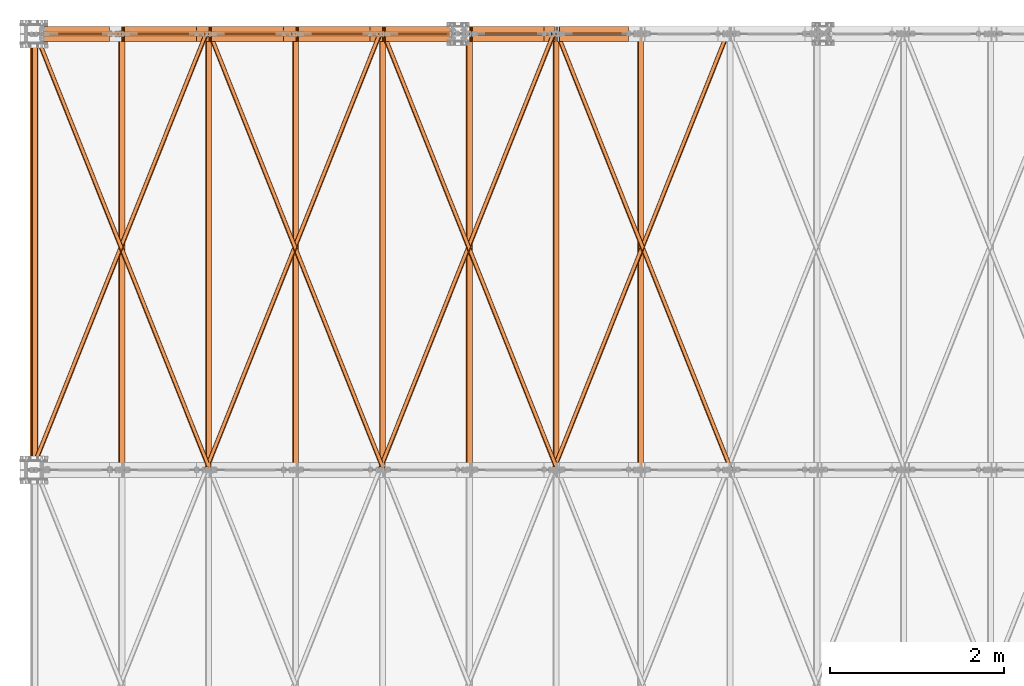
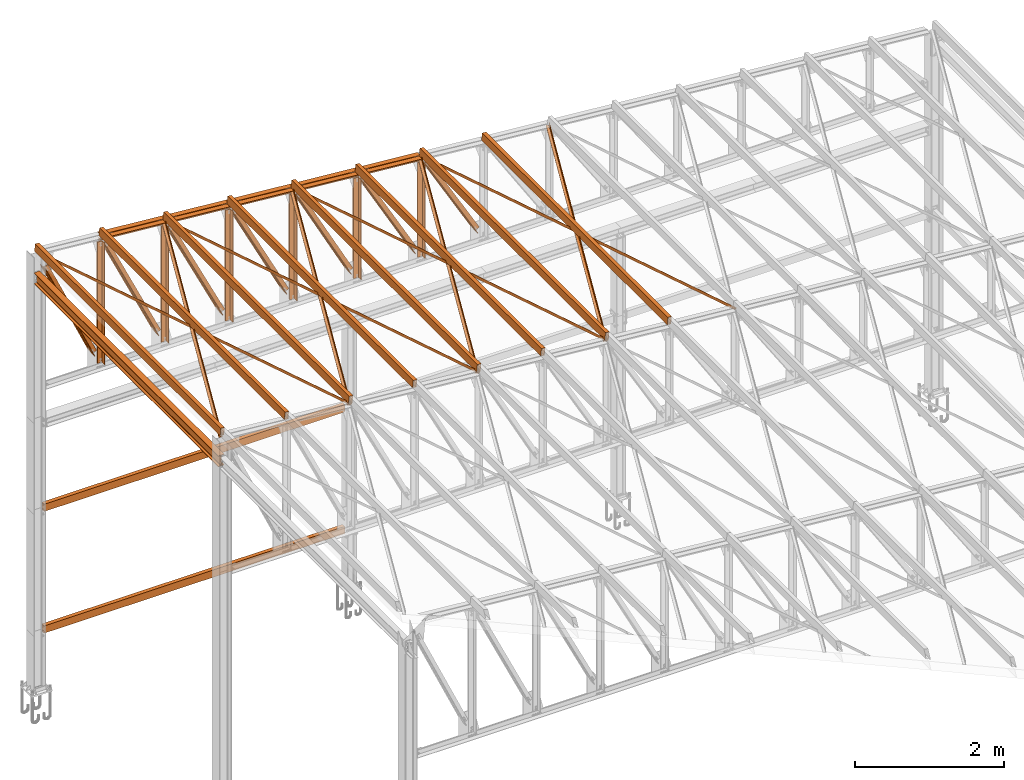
# One storey, part 243 of 251: 47 proxies.
"""IFC4 building model written with IfcOpenShell, lengths in metres."""

from ifc_helpers import new_model, si_unit, frame, frame_2d, origin_with_axes, origin_2d_with_axis, place, context, project, spatial, polyline, hollow_rectangle, i_section, l_section, outline, extrude, clip, halfspace, material, material_profile, profile_set, profile_usage, type_object, element, save


model = new_model("IFC4")

# Units and contexts
model_context = context("Model", 3, precision=1e-05, world=origin_with_axes())
ifc_project = project(units=[si_unit("LENGTHUNIT", "METRE"), si_unit("AREAUNIT", "SQUARE_METRE"), si_unit("VOLUMEUNIT", "CUBIC_METRE"), si_unit("MASSUNIT", "GRAM", prefix="KILO"), si_unit("TIMEUNIT", "SECOND"), si_unit("PLANEANGLEUNIT", "RADIAN"), si_unit("SOLIDANGLEUNIT", "STERADIAN"), si_unit("THERMODYNAMICTEMPERATUREUNIT", "DEGREE_CELSIUS")], contexts=[model_context])

# Site, building, storey
placement_1 = place(None, origin_with_axes())
site = spatial("IfcSite", under=ifc_project, at=placement_1, Name="Italia", CompositionType="ELEMENT")
building = spatial("IfcBuilding", under=site, at=placement_1, Name="Deposito", CompositionType="ELEMENT")
storey = spatial("IfcBuildingStorey", under=building, at=placement_1, Name="Storey 0", CompositionType="ELEMENT", Elevation=0.0)

# Proxies
ifc_material = material(Name="Acciaio", Category="Acciaio")
ifc_material_profile = material_profile(ifc_material, i_section(OverallWidth=0.2, OverallDepth=0.19, WebThickness=0.006, FlangeThickness=0.01, FilletRadius=0.018, at=origin_2d_with_axis()), Name="7 PILASTRO HEA200")
ifc_profile_set = profile_set([ifc_material_profile])
ifc_profile_usage_1 = profile_usage(ifc_profile_set, cardinal=1)
member_type_1 = type_object("IfcMemberType", Name="5 2L80x8", PredefinedType="MEMBER", material=ifc_profile_usage_1)
placement_2 = place(placement_1, origin_with_axes())
proxy_1_placement = place(placement_2, origin_with_axes())
element("IfcBuildingElementProxy", 1, at=proxy_1_placement, inside=storey, type_object=member_type_1, Name="170005", context=model_context, shape_type="SweptSolid", body=[
    extrude(outline(polyline([(0.0, 0.0), (-0.0799999, 0.0), (-0.0799999, 0.00800037), (-0.00800133, 0.00800037), (-0.00800133, 0.0799999), (0.0, 0.0799999), (0.0, 0.0)])), frame((12.0716, 19.995, 6.57981), z_axis=(0.496024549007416, 0.0, -0.868308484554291), x_axis=(0.0, 1.0, 0.0)), (0.0, 0.0, 1.0), 1.5955),
])
ifc_profile_usage_2 = profile_usage(ifc_profile_set, cardinal=1)
member_type_2 = type_object("IfcMemberType", Name="5 2L80x8", PredefinedType="MEMBER", material=ifc_profile_usage_2)
proxy_2_placement = place(placement_2, origin_with_axes())
element("IfcBuildingElementProxy", 2, at=proxy_2_placement, inside=storey, type_object=member_type_2, Name="170005", context=model_context, shape_type="SweptSolid", body=[
    extrude(outline(polyline([(0.0, 0.0), (0.00800133, 0.0), (0.00800133, -0.0719986), (0.0799999, -0.0719986), (0.0799999, -0.079999), (0.0, -0.079999), (0.0, 0.0)])), frame((12.1411, 20.005, 6.6195), z_axis=(0.496024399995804, 0.0, -0.868308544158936), x_axis=(0.0, 1.0, 0.0)), (0.0, 0.0, 1.0), 1.59551),
])
ifc_profile_usage_3 = profile_usage(ifc_profile_set, cardinal=2)
member_type_3 = type_object("IfcMemberType", Name="5 2L80x8", PredefinedType="MEMBER", material=ifc_profile_usage_3)
proxy_3_placement = place(placement_2, origin_with_axes())
element("IfcBuildingElementProxy", 3, at=proxy_3_placement, inside=storey, type_object=member_type_3, Name="230075", context=model_context, shape_type="SweptSolid", body=[
    extrude(outline(polyline([(0.0, 0.0), (0.0799999, 0.0), (0.0799999, -0.00800085), (0.00800133, -0.00800085), (0.00800133, -0.0799999), (0.0, -0.0799999), (0.0, 0.0)])), frame((7.05143, 20.005, 7.15546), z_axis=(0.996194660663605, 0.0, -0.087155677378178), x_axis=(0.0, 1.0, 0.0)), (0.0, 0.0, 1.0), 4.99498),
])
ifc_profile_usage_4 = profile_usage(ifc_profile_set, cardinal=2)
member_type_4 = type_object("IfcMemberType", Name="5 2L80x8", PredefinedType="MEMBER", material=ifc_profile_usage_4)
proxy_4_placement = place(placement_2, origin_with_axes())
element("IfcBuildingElementProxy", 4, at=proxy_4_placement, inside=storey, type_object=member_type_4, Name="230075", context=model_context, shape_type="SweptSolid", body=[
    extrude(outline(polyline([(0.0, 0.0), (-0.00800133, 0.0), (-0.00800133, 0.0719991), (-0.0799999, 0.0719991), (-0.0799999, 0.0799994), (0.0, 0.0799994), (0.0, 0.0)])), frame((7.04446, 19.995, 7.07576), z_axis=(0.99619472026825, 0.0, -0.087155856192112), x_axis=(0.0, 1.0, 0.0)), (0.0, 0.0, 1.0), 4.99498),
])
ifc_profile_usage_5 = profile_usage(ifc_profile_set, cardinal=1)
member_type_5 = type_object("IfcMemberType", Name="5 2L80x8", PredefinedType="MEMBER", material=ifc_profile_usage_5)
proxy_5_placement = place(placement_2, origin_with_axes())
element("IfcBuildingElementProxy", 5, at=proxy_5_placement, inside=storey, type_object=member_type_5, Name="70", context=model_context, shape_type="SweptSolid", body=[
    extrude(outline(polyline([(0.0, 0.0), (-0.0799999, 0.0), (-0.0799999, 0.00800037), (-0.00800133, 0.00800037), (-0.00800133, 0.0799999), (0.0, 0.0799999), (0.0, 0.0)])), frame((12.053, 19.995, 5.06753), z_axis=(0.0, 0.0, 1.0), x_axis=(0.0, 1.0, 0.0)), (0.0, 0.0, 1.0), 1.55988),
])
ifc_profile_usage_6 = profile_usage(ifc_profile_set, cardinal=1)
member_type_6 = type_object("IfcMemberType", Name="5 2L80x8", PredefinedType="MEMBER", material=ifc_profile_usage_6)
proxy_6_placement = place(placement_2, origin_with_axes())
element("IfcBuildingElementProxy", 6, at=proxy_6_placement, inside=storey, type_object=member_type_6, Name="70", context=model_context, shape_type="SweptSolid", body=[
    extrude(outline(polyline([(0.0, 0.0), (0.00800133, 0.0), (0.00800133, -0.0719995), (0.0799999, -0.0719995), (0.0799999, -0.0799999), (0.0, -0.0799999), (0.0, 0.0)])), frame((11.973, 20.005, 5.06753), z_axis=(0.0, 0.0, 1.0), x_axis=(0.0, 1.0, 0.0)), (0.0, 0.0, 1.0), 1.55988),
])
ifc_profile_usage_7 = profile_usage(ifc_profile_set, cardinal=1)
member_type_7 = type_object("IfcMemberType", Name="5 2L80x8", PredefinedType="MEMBER", material=ifc_profile_usage_7)
proxy_7_placement = place(placement_2, origin_with_axes())
element("IfcBuildingElementProxy", 7, at=proxy_7_placement, inside=storey, type_object=member_type_7, Name="180005", context=model_context, shape_type="SweptSolid", body=[
    extrude(outline(polyline([(0.0, 0.0), (-0.0799999, 0.0), (-0.0799999, 0.00799942), (-0.00800133, 0.00799942), (-0.00800133, 0.0799999), (0.0, 0.0799999), (0.0, 0.0)])), frame((11.0734, 19.995, 6.66808), z_axis=(0.487459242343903, 0.0, -0.873145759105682), x_axis=(0.0, 1.0, 0.0)), (0.0, 0.0, 1.0), 1.68149),
])
ifc_profile_usage_8 = profile_usage(ifc_profile_set, cardinal=1)
member_type_8 = type_object("IfcMemberType", Name="5 2L80x8", PredefinedType="MEMBER", material=ifc_profile_usage_8)
proxy_8_placement = place(placement_2, origin_with_axes())
element("IfcBuildingElementProxy", 8, at=proxy_8_placement, inside=storey, type_object=member_type_8, Name="180005", context=model_context, shape_type="SweptSolid", body=[
    extrude(outline(polyline([(0.0, 0.0), (0.00800133, 0.0), (0.00800133, -0.0719986), (0.0799999, -0.0719986), (0.0799999, -0.079998), (0.0, -0.079998), (0.0, 0.0)])), frame((11.1433, 20.005, 6.70707), z_axis=(0.487459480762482, 0.0, -0.873145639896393), x_axis=(0.0, 1.0, 0.0)), (0.0, 0.0, 1.0), 1.68149),
])
ifc_profile_usage_9 = profile_usage(ifc_profile_set, cardinal=1)
member_type_9 = type_object("IfcMemberType", Name="5 2L80x8", PredefinedType="MEMBER", material=ifc_profile_usage_9)
proxy_9_placement = place(placement_2, origin_with_axes())
element("IfcBuildingElementProxy", 9, at=proxy_9_placement, inside=storey, type_object=member_type_9, Name="69", context=model_context, shape_type="SweptSolid", body=[
    extrude(outline(polyline([(0.0, 0.0), (-0.0799999, 0.0), (-0.0799999, 0.00800037), (-0.00800133, 0.00800037), (-0.00800133, 0.0799999), (0.0, 0.0799999), (0.0, 0.0)])), frame((11.0568, 19.995, 5.06753), z_axis=(0.0, 0.0, 1.0), x_axis=(0.0, 1.0, 0.0)), (0.0, 0.0, 1.0), 1.64711),
])
ifc_profile_usage_10 = profile_usage(ifc_profile_set, cardinal=1)
member_type_10 = type_object("IfcMemberType", Name="5 2L80x8", PredefinedType="MEMBER", material=ifc_profile_usage_10)
proxy_10_placement = place(placement_2, origin_with_axes())
element("IfcBuildingElementProxy", 10, at=proxy_10_placement, inside=storey, type_object=member_type_10, Name="69", context=model_context, shape_type="SweptSolid", body=[
    extrude(outline(polyline([(0.0, 0.0), (0.00800133, 0.0), (0.00800133, -0.0719995), (0.0799999, -0.0719995), (0.0799999, -0.0799999), (0.0, -0.0799999), (0.0, 0.0)])), frame((10.9768, 20.005, 5.06753), z_axis=(0.0, 0.0, 1.0), x_axis=(0.0, 1.0, 0.0)), (0.0, 0.0, 1.0), 1.64711),
])
ifc_profile_usage_11 = profile_usage(ifc_profile_set, cardinal=1)
member_type_11 = type_object("IfcMemberType", Name="5 2L80x8", PredefinedType="MEMBER", material=ifc_profile_usage_11)
proxy_11_placement = place(placement_2, origin_with_axes())
element("IfcBuildingElementProxy", 11, at=proxy_11_placement, inside=storey, type_object=member_type_11, Name="190005", context=model_context, shape_type="SweptSolid", body=[
    extrude(outline(polyline([(0.0, 0.0), (-0.0799999, 0.0), (-0.0799999, 0.00799942), (-0.00800133, 0.00799942), (-0.00800133, 0.0799999), (0.0, 0.0799999), (0.0, 0.0)])), frame((10.0736, 19.995, 6.75689), z_axis=(0.469864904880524, 0.0, -0.882738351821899), x_axis=(0.0, 1.0, 0.0)), (0.0, 0.0, 1.0), 1.75054),
])
ifc_profile_usage_12 = profile_usage(ifc_profile_set, cardinal=1)
member_type_12 = type_object("IfcMemberType", Name="5 2L80x8", PredefinedType="MEMBER", material=ifc_profile_usage_12)
proxy_12_placement = place(placement_2, origin_with_axes())
element("IfcBuildingElementProxy", 12, at=proxy_12_placement, inside=storey, type_object=member_type_12, Name="190005", context=model_context, shape_type="SweptSolid", body=[
    extrude(outline(polyline([(0.0, 0.0), (0.00800133, 0.0), (0.00800133, -0.0720005), (0.0799999, -0.0720005), (0.0799999, -0.0799999), (0.0, -0.0799999), (0.0, 0.0)])), frame((10.1442, 20.005, 6.79448), z_axis=(0.469864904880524, 0.0, -0.882738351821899), x_axis=(0.0, 1.0, 0.0)), (0.0, 0.0, 1.0), 1.75054),
])
ifc_profile_usage_13 = profile_usage(ifc_profile_set, cardinal=1)
member_type_13 = type_object("IfcMemberType", Name="5 2L80x8", PredefinedType="MEMBER", material=ifc_profile_usage_13)
proxy_13_placement = place(placement_2, origin_with_axes())
element("IfcBuildingElementProxy", 13, at=proxy_13_placement, inside=storey, type_object=member_type_13, Name="67", context=model_context, shape_type="SweptSolid", body=[
    extrude(outline(polyline([(0.0, 0.0), (-0.0799999, 0.0), (-0.0799999, 0.00800037), (-0.00800133, 0.00800037), (-0.00800133, 0.0799999), (0.0, 0.0799999), (0.0, 0.0)])), frame((10.0606, 19.995, 5.06753), z_axis=(0.0, 0.0, 1.0), x_axis=(0.0, 1.0, 0.0)), (0.0, 0.0, 1.0), 1.73426),
])
ifc_profile_usage_14 = profile_usage(ifc_profile_set, cardinal=1)
member_type_14 = type_object("IfcMemberType", Name="5 2L80x8", PredefinedType="MEMBER", material=ifc_profile_usage_14)
proxy_14_placement = place(placement_2, origin_with_axes())
element("IfcBuildingElementProxy", 14, at=proxy_14_placement, inside=storey, type_object=member_type_14, Name="67", context=model_context, shape_type="SweptSolid", body=[
    extrude(outline(polyline([(0.0, 0.0), (0.00800133, 0.0), (0.00800133, -0.0719995), (0.0799999, -0.0719995), (0.0799999, -0.0799999), (0.0, -0.0799999), (0.0, 0.0)])), frame((9.98057, 20.005, 5.06753), z_axis=(0.0, 0.0, 1.0), x_axis=(0.0, 1.0, 0.0)), (0.0, 0.0, 1.0), 1.73426),
])
ifc_profile_usage_15 = profile_usage(ifc_profile_set, cardinal=1)
member_type_15 = type_object("IfcMemberType", Name="5 2L80x8", PredefinedType="MEMBER", material=ifc_profile_usage_15)
proxy_15_placement = place(placement_2, origin_with_axes())
element("IfcBuildingElementProxy", 15, at=proxy_15_placement, inside=storey, type_object=member_type_15, Name="200005", context=model_context, shape_type="SweptSolid", body=[
    extrude(outline(polyline([(0.0, 0.0), (-0.0799999, 0.0), (-0.0799999, 0.00800133), (-0.00800133, 0.00800133), (-0.00800133, 0.0799999), (0.0, 0.0799999), (0.0, 0.0)])), frame((9.07443, 19.995, 6.84501), z_axis=(0.453332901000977, 0.0, -0.891341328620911), x_axis=(0.0, 1.0, 0.0)), (0.0, 0.0, 1.0), 1.81939),
])
ifc_profile_usage_16 = profile_usage(ifc_profile_set, cardinal=1)
member_type_16 = type_object("IfcMemberType", Name="5 2L80x8", PredefinedType="MEMBER", material=ifc_profile_usage_16)
proxy_16_placement = place(placement_2, origin_with_axes())
element("IfcBuildingElementProxy", 16, at=proxy_16_placement, inside=storey, type_object=member_type_16, Name="200005", context=model_context, shape_type="SweptSolid", body=[
    extrude(outline(polyline([(0.0, 0.0), (0.00800133, 0.0), (0.00800133, -0.0719986), (0.0799999, -0.0719986), (0.0799999, -0.079999), (0.0, -0.079999), (0.0, 0.0)])), frame((9.14573, 20.005, 6.88128), z_axis=(0.453332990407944, 0.0, -0.891341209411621), x_axis=(0.0, 1.0, 0.0)), (0.0, 0.0, 1.0), 1.81938),
])
ifc_profile_usage_17 = profile_usage(ifc_profile_set, cardinal=1)
member_type_17 = type_object("IfcMemberType", Name="5 2L80x8", PredefinedType="MEMBER", material=ifc_profile_usage_17)
proxy_17_placement = place(placement_2, origin_with_axes())
element("IfcBuildingElementProxy", 17, at=proxy_17_placement, inside=storey, type_object=member_type_17, Name="66", context=model_context, shape_type="SweptSolid", body=[
    extrude(outline(polyline([(0.0, 0.0), (-0.0799999, 0.0), (-0.0799999, 0.00800037), (-0.00800133, 0.00800037), (-0.00800133, 0.0799999), (0.0, 0.0799999), (0.0, 0.0)])), frame((9.06438, 19.995, 5.06753), z_axis=(0.0, 0.0, 1.0), x_axis=(0.0, 1.0, 0.0)), (0.0, 0.0, 1.0), 1.82142),
])
ifc_profile_usage_18 = profile_usage(ifc_profile_set, cardinal=1)
member_type_18 = type_object("IfcMemberType", Name="5 2L80x8", PredefinedType="MEMBER", material=ifc_profile_usage_18)
proxy_18_placement = place(placement_2, origin_with_axes())
element("IfcBuildingElementProxy", 18, at=proxy_18_placement, inside=storey, type_object=member_type_18, Name="66", context=model_context, shape_type="SweptSolid", body=[
    extrude(outline(polyline([(0.0, 0.0), (0.00800133, 0.0), (0.00800133, -0.0719995), (0.0799999, -0.0719995), (0.0799999, -0.0799999), (0.0, -0.0799999), (0.0, 0.0)])), frame((8.98438, 20.005, 5.06753), z_axis=(0.0, 0.0, 1.0), x_axis=(0.0, 1.0, 0.0)), (0.0, 0.0, 1.0), 1.82142),
])
ifc_profile_usage_19 = profile_usage(ifc_profile_set, cardinal=1)
member_type_19 = type_object("IfcMemberType", Name="5 2L80x8", PredefinedType="MEMBER", material=ifc_profile_usage_19)
proxy_19_placement = place(placement_2, origin_with_axes())
element("IfcBuildingElementProxy", 19, at=proxy_19_placement, inside=storey, type_object=member_type_19, Name="210005", context=model_context, shape_type="SweptSolid", body=[
    extrude(outline(polyline([(0.0, 0.0), (-0.0799999, 0.0), (-0.0799999, 0.00799942), (-0.00800133, 0.00799942), (-0.00800133, 0.0799999), (0.0, 0.0799999), (0.0, 0.0)])), frame((8.07823, 19.995, 6.92755), z_axis=(0.437787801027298, 0.0, -0.89907830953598), x_axis=(0.0, 1.0, 0.0)), (0.0, 0.0, 1.0), 1.88258),
])
ifc_profile_usage_20 = profile_usage(ifc_profile_set, cardinal=1)
member_type_20 = type_object("IfcMemberType", Name="5 2L80x8", PredefinedType="MEMBER", material=ifc_profile_usage_20)
proxy_20_placement = place(placement_2, origin_with_axes())
element("IfcBuildingElementProxy", 20, at=proxy_20_placement, inside=storey, type_object=member_type_20, Name="210005", context=model_context, shape_type="SweptSolid", body=[
    extrude(outline(polyline([(0.0, 0.0), (0.00800133, 0.0), (0.00800133, -0.0719995), (0.0799999, -0.0719995), (0.0799999, -0.0799999), (0.0, -0.0799999), (0.0, 0.0)])), frame((8.15016, 20.005, 6.96258), z_axis=(0.437788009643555, 0.0, -0.899078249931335), x_axis=(0.0, 1.0, 0.0)), (0.0, 0.0, 1.0), 1.88258),
])
ifc_profile_usage_21 = profile_usage(ifc_profile_set, cardinal=1)
member_type_21 = type_object("IfcMemberType", Name="5 2L80x8", PredefinedType="MEMBER", material=ifc_profile_usage_21)
proxy_21_placement = place(placement_2, origin_with_axes())
element("IfcBuildingElementProxy", 21, at=proxy_21_placement, inside=storey, type_object=member_type_21, Name="65", context=model_context, shape_type="SweptSolid", body=[
    extrude(outline(polyline([(0.0, 0.0), (-0.0799999, 0.0), (-0.0799999, 0.00800037), (-0.00800133, 0.00800037), (-0.00800133, 0.0800004), (0.0, 0.0800004), (0.0, 0.0)])), frame((8.06818, 19.995, 5.06753), z_axis=(0.0, 0.0, 1.0), x_axis=(0.0, 1.0, 0.0)), (0.0, 0.0, 1.0), 1.90857),
])
ifc_profile_usage_22 = profile_usage(ifc_profile_set, cardinal=1)
member_type_22 = type_object("IfcMemberType", Name="5 2L80x8", PredefinedType="MEMBER", material=ifc_profile_usage_22)
proxy_22_placement = place(placement_2, origin_with_axes())
element("IfcBuildingElementProxy", 22, at=proxy_22_placement, inside=storey, type_object=member_type_22, Name="65", context=model_context, shape_type="SweptSolid", body=[
    extrude(outline(polyline([(0.0, 0.0), (0.00800133, 0.0), (0.00800133, -0.072), (0.0799999, -0.072), (0.0799999, -0.0800004), (0.0, -0.0800004), (0.0, 0.0)])), frame((7.98818, 20.005, 5.06753), z_axis=(0.0, 0.0, 1.0), x_axis=(0.0, 1.0, 0.0)), (0.0, 0.0, 1.0), 1.90857),
])
ifc_profile_usage_23 = profile_usage(ifc_profile_set, cardinal=1)
member_type_23 = type_object("IfcMemberType", Name="5 2L80x8", PredefinedType="MEMBER", material=ifc_profile_usage_23)
proxy_23_placement = place(placement_2, origin_with_axes())
element("IfcBuildingElementProxy", 23, at=proxy_23_placement, inside=storey, type_object=member_type_23, Name="220005", context=model_context, shape_type="SweptSolid", body=[
    extrude(outline(polyline([(0.0, 0.0), (-0.0799999, 0.0), (-0.0799999, 0.00800037), (-0.00800133, 0.00800037), (-0.00800133, 0.0800009), (0.0, 0.0800009), (0.0, 0.0)])), frame((7.08204, 19.995, 7.01008), z_axis=(0.423158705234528, 0.0, -0.906055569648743), x_axis=(0.0, 1.0, 0.0)), (0.0, 0.0, 1.0), 1.94634),
])
ifc_profile_usage_24 = profile_usage(ifc_profile_set, cardinal=1)
member_type_24 = type_object("IfcMemberType", Name="5 2L80x8", PredefinedType="MEMBER", material=ifc_profile_usage_24)
proxy_24_placement = place(placement_2, origin_with_axes())
element("IfcBuildingElementProxy", 24, at=proxy_24_placement, inside=storey, type_object=member_type_24, Name="220005", context=model_context, shape_type="SweptSolid", body=[
    extrude(outline(polyline([(0.0, 0.0), (0.00800133, 0.0), (0.00800133, -0.0720005), (0.0799999, -0.0720005), (0.0799999, -0.0800009), (0.0, -0.0800009), (0.0, 0.0)])), frame((7.15452, 20.005, 7.04394), z_axis=(0.423158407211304, 0.0, -0.906055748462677), x_axis=(0.0, 1.0, 0.0)), (0.0, 0.0, 1.0), 1.94634),
])
ifc_profile_usage_25 = profile_usage(ifc_profile_set, cardinal=1)
member_type_25 = type_object("IfcMemberType", Name="5 2L80x8", PredefinedType="MEMBER", material=ifc_profile_usage_25)
proxy_25_placement = place(placement_2, origin_with_axes())
element("IfcBuildingElementProxy", 25, at=proxy_25_placement, inside=storey, type_object=member_type_25, Name="64", context=model_context, shape_type="SweptSolid", body=[
    extrude(outline(polyline([(0.0, 0.0), (-0.0799999, 0.0), (-0.0799999, 0.0079999), (-0.00800133, 0.0079999), (-0.00800133, 0.0799999), (0.0, 0.0799999), (0.0, 0.0)])), frame((7.07199, 19.995, 5.06753), z_axis=(0.0, 0.0, 1.0), x_axis=(0.0, 1.0, 0.0)), (0.0, 0.0, 1.0), 1.99573),
])
ifc_profile_usage_26 = profile_usage(ifc_profile_set, cardinal=1)
member_type_26 = type_object("IfcMemberType", Name="5 2L80x8", PredefinedType="MEMBER", material=ifc_profile_usage_26)
proxy_26_placement = place(placement_2, origin_with_axes())
element("IfcBuildingElementProxy", 26, at=proxy_26_placement, inside=storey, type_object=member_type_26, Name="64", context=model_context, shape_type="SweptSolid", body=[
    extrude(outline(polyline([(0.0, 0.0), (0.00800133, 0.0), (0.00800133, -0.072), (0.0799999, -0.072), (0.0799999, -0.0799999), (0.0, -0.0799999), (0.0, 0.0)])), frame((6.99199, 20.005, 5.06753), z_axis=(0.0, 0.0, 1.0), x_axis=(0.0, 1.0, 0.0)), (0.0, 0.0, 1.0), 1.99573),
])
ifc_profile_usage_27 = profile_usage(ifc_profile_set, cardinal=1)
member_type_27 = type_object("IfcMemberType", Name="5 2L80x8", PredefinedType="MEMBER", material=ifc_profile_usage_27)
proxy_27_placement = place(placement_2, origin_with_axes())
element("IfcBuildingElementProxy", 27, at=proxy_27_placement, inside=storey, type_object=member_type_27, Name="230005", context=model_context, shape_type="SweptSolid", body=[
    extrude(outline(polyline([(0.0, 0.0), (-0.0799999, 0.0), (-0.0799999, 0.00799942), (-0.00800133, 0.00799942), (-0.00800133, 0.079999), (0.0, 0.079999), (0.0, 0.0)])), frame((6.15505, 19.995, 6.93198), z_axis=(0.410496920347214, 0.0, -0.911861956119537), x_axis=(0.0, 1.0, 0.0)), (0.0, 0.0, 1.0), 1.83665),
])
ifc_profile_usage_28 = profile_usage(ifc_profile_set, cardinal=1)
member_type_28 = type_object("IfcMemberType", Name="5 2L80x8", PredefinedType="MEMBER", material=ifc_profile_usage_28)
proxy_28_placement = place(placement_2, origin_with_axes())
element("IfcBuildingElementProxy", 28, at=proxy_28_placement, inside=storey, type_object=member_type_28, Name="230005", context=model_context, shape_type="SweptSolid", body=[
    extrude(outline(polyline([(0.0, 0.0), (0.00800133, 0.0), (0.00800133, -0.0719995), (0.0799999, -0.0719995), (0.0799999, -0.0799999), (0.0, -0.0799999), (0.0, 0.0)])), frame((6.228, 20.005, 6.96482), z_axis=(0.410497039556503, 0.0, -0.911861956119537), x_axis=(0.0, 1.0, 0.0)), (0.0, 0.0, 1.0), 1.83665),
])
ifc_profile_usage_29 = profile_usage(ifc_profile_set, cardinal=8)
member_type_29 = type_object("IfcMemberType", Name="1 RHS120x60x8", PredefinedType="MEMBER", material=ifc_profile_usage_29)
proxy_29_placement = place(placement_2, origin_with_axes())
element("IfcBuildingElementProxy", 29, at=proxy_29_placement, inside=storey, type_object=member_type_29, Name="210021", context=model_context, shape_type="SweptSolid", body=[
    extrude(hollow_rectangle(XDim=0.06, YDim=0.12, WallThickness=0.008, at=frame_2d((0.0, 0.0), x_axis=(0.996194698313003, 0.087155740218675))), frame((8.05286, 15.0, 7.1281), z_axis=(0.0, 1.0, 0.0), x_axis=(-1.0, 0.0, 0.0)), (0.0, 0.0, 1.0), 5.0),
])
ifc_profile_usage_30 = profile_usage(ifc_profile_set, cardinal=8)
member_type_30 = type_object("IfcMemberType", Name="1 RHS120x60x8", PredefinedType="MEMBER", material=ifc_profile_usage_30)
proxy_30_placement = place(placement_2, origin_with_axes())
element("IfcBuildingElementProxy", 30, at=proxy_30_placement, inside=storey, type_object=member_type_30, Name="230019", context=model_context, shape_type="SweptSolid", body=[
    extrude(hollow_rectangle(XDim=0.06, YDim=0.12, WallThickness=0.008, at=frame_2d((0.0, 0.0), x_axis=(0.996194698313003, 0.087155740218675))), frame((6.05719, 15.0, 7.30242), z_axis=(0.0, 1.0, 0.0), x_axis=(-1.0, 0.0, 0.0)), (0.0, 0.0, 1.0), 5.0),
])
ifc_profile_usage_31 = profile_usage(ifc_profile_set, cardinal=8)
member_type_31 = type_object("IfcMemberType", Name="1 RHS120x60x8", PredefinedType="MEMBER", material=ifc_profile_usage_31)
proxy_31_placement = place(placement_2, origin_with_axes())
element("IfcBuildingElementProxy", 31, at=proxy_31_placement, inside=storey, type_object=member_type_31, Name="190024", context=model_context, shape_type="SweptSolid", body=[
    extrude(hollow_rectangle(XDim=0.06, YDim=0.12, WallThickness=0.008, at=frame_2d((0.0, 0.0), x_axis=(0.996194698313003, 0.087155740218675))), frame((10.0452, 15.0, 6.95379), z_axis=(0.0, 1.0, 0.0), x_axis=(-1.0, 0.0, 0.0)), (0.0, 0.0, 1.0), 5.0),
])
ifc_profile_usage_32 = profile_usage(ifc_profile_set, cardinal=8)
member_type_32 = type_object("IfcMemberType", Name="1 RHS120x60x8", PredefinedType="MEMBER", material=ifc_profile_usage_32)
proxy_32_placement = place(placement_2, origin_with_axes())
element("IfcBuildingElementProxy", 32, at=proxy_32_placement, inside=storey, type_object=member_type_32, Name="170027", context=model_context, shape_type="SweptSolid", body=[
    extrude(hollow_rectangle(XDim=0.06, YDim=0.12, WallThickness=0.008, at=frame_2d((0.0, 0.0), x_axis=(0.996194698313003, 0.087155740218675))), frame((12.0376, 15.0, 6.77948), z_axis=(0.0, 1.0, 0.0), x_axis=(-1.0, 0.0, 0.0)), (0.0, 0.0, 1.0), 5.0),
])
ifc_profile_usage_33 = profile_usage(ifc_profile_set, cardinal=8)
member_type_33 = type_object("IfcMemberType", Name="1 RHS120x60x8", PredefinedType="MEMBER", material=ifc_profile_usage_33)
proxy_33_placement = place(placement_2, origin_with_axes())
element("IfcBuildingElementProxy", 33, at=proxy_33_placement, inside=storey, type_object=member_type_33, Name="220020", context=model_context, shape_type="SweptSolid", body=[
    extrude(hollow_rectangle(XDim=0.06, YDim=0.12, WallThickness=0.008, at=frame_2d((0.0, 0.0), x_axis=(0.996194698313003, 0.087155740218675))), frame((7.05666, 15.0, 7.21526), z_axis=(0.0, 1.0, 0.0), x_axis=(-1.0, 0.0, 0.0)), (0.0, 0.0, 1.0), 5.0),
])
ifc_profile_usage_34 = profile_usage(ifc_profile_set, cardinal=8)
member_type_34 = type_object("IfcMemberType", Name="1 RHS120x60x8", PredefinedType="MEMBER", material=ifc_profile_usage_34)
proxy_34_placement = place(placement_2, origin_with_axes())
element("IfcBuildingElementProxy", 34, at=proxy_34_placement, inside=storey, type_object=member_type_34, Name="200023", context=model_context, shape_type="SweptSolid", body=[
    extrude(hollow_rectangle(XDim=0.06, YDim=0.12, WallThickness=0.008, at=frame_2d((0.0, 0.0), x_axis=(0.996194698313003, 0.087155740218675))), frame((9.04905, 15.0, 7.04095), z_axis=(0.0, 1.0, 0.0), x_axis=(-1.0, 0.0, 0.0)), (0.0, 0.0, 1.0), 5.0),
])
ifc_profile_usage_35 = profile_usage(ifc_profile_set, cardinal=8)
member_type_35 = type_object("IfcMemberType", Name="1 RHS120x60x8", PredefinedType="MEMBER", material=ifc_profile_usage_35)
proxy_35_placement = place(placement_2, origin_with_axes())
element("IfcBuildingElementProxy", 35, at=proxy_35_placement, inside=storey, type_object=member_type_35, Name="180026", context=model_context, shape_type="SweptSolid", body=[
    extrude(hollow_rectangle(XDim=0.06, YDim=0.12, WallThickness=0.008, at=frame_2d((0.0, 0.0), x_axis=(0.996194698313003, 0.087155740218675))), frame((11.0414, 15.0, 6.86664), z_axis=(0.0, 1.0, 0.0), x_axis=(-1.0, 0.0, 0.0)), (0.0, 0.0, 1.0), 5.0),
])
ifc_profile_usage_36 = profile_usage(ifc_profile_set, cardinal=8)
member_type_36 = type_object("IfcMemberType", Name="1 RHS120x60x8", PredefinedType="MEMBER", material=ifc_profile_usage_36)
proxy_36_placement = place(placement_2, origin_with_axes())
element("IfcBuildingElementProxy", 36, at=proxy_36_placement, inside=storey, type_object=member_type_36, Name="160028", context=model_context, shape_type="SweptSolid", body=[
    extrude(hollow_rectangle(XDim=0.06, YDim=0.12, WallThickness=0.008, at=frame_2d((0.0, 0.0), x_axis=(0.996194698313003, 0.087155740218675))), frame((13.0072, 15.0, 6.69233), z_axis=(0.0, 1.0, 0.0), x_axis=(-1.0, 0.0, 0.0)), (0.0, 0.0, 1.0), 5.0),
])
ifc_profile_usage_37 = profile_usage(ifc_profile_set, cardinal=5)
member_type_37 = type_object("IfcMemberType", Name="1 RHS120x60x8", PredefinedType="MEMBER", material=ifc_profile_usage_37)
proxy_37_placement = place(placement_2, frame((3.617500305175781, 20.0, 3.0), z_axis=(0.0, 0.0, 1.0), x_axis=(1.0, 0.0, 0.0)))
element("IfcBuildingElementProxy", 37, at=proxy_37_placement, inside=storey, type_object=member_type_37, Name="280075", context=model_context, shape_type="Clipping", body=[
    clip(clip(extrude(hollow_rectangle(XDim=0.06, YDim=0.12, WallThickness=0.008, at=origin_2d_with_axis()), frame((0.0, 0.0, 0.0), z_axis=(1.0, 0.0, 0.0), x_axis=(0.0, 1.0, 0.0)), (0.0, 0.0, 1.0), 9.73), halfspace(frame((2.5375, 0.00519943, 0.0112), z_axis=(-1.0, 0.0, 0.0), x_axis=(0.0, -1.0, 0.0)), False)), halfspace(frame((7.2115, 0.00519943, 0.0112), z_axis=(-1.0, 0.0, 0.0), x_axis=(0.0, -1.0, 0.0)), True)),
])
ifc_profile_usage_38 = profile_usage(ifc_profile_set, cardinal=5)
member_type_38 = type_object("IfcMemberType", Name="1 RHS120x60x8", PredefinedType="MEMBER", material=ifc_profile_usage_38)
proxy_38_placement = place(placement_2, frame((3.617500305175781, 20.0, 1.0), z_axis=(0.0, 0.0, 1.0), x_axis=(1.0, 0.0, 0.0)))
element("IfcBuildingElementProxy", 38, at=proxy_38_placement, inside=storey, type_object=member_type_38, Name="280005", context=model_context, shape_type="Clipping", body=[
    clip(clip(extrude(hollow_rectangle(XDim=0.06, YDim=0.12, WallThickness=0.008, at=origin_2d_with_axis()), frame((0.0, 0.0, 0.0), z_axis=(1.0, 0.0, 0.0), x_axis=(0.0, 1.0, 0.0)), (0.0, 0.0, 1.0), 9.73), halfspace(frame((2.5375, 0.00519943, 0.0112001), z_axis=(-1.0, 0.0, 0.0), x_axis=(0.0, -1.0, 0.0)), False)), halfspace(frame((7.2115, 0.00519943, 0.0112001), z_axis=(-1.0, 0.0, 0.0), x_axis=(0.0, -1.0, 0.0)), True)),
])
ifc_profile_usage_39 = profile_usage(ifc_profile_set, cardinal=5)
member_type_39 = type_object("IfcMemberType", Name="9 ARCARECCI IPE180", PredefinedType="MEMBER", material=ifc_profile_usage_39)
proxy_39_placement = place(placement_2, frame((6.049999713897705, 12.5, 6.820181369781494), z_axis=(0.0, 0.0, 1.0), x_axis=(1.0, 0.0, 0.0)))
element("IfcBuildingElementProxy", 39, at=proxy_39_placement, inside=storey, type_object=member_type_39, Name="280019", context=model_context, shape_type="Clipping", body=[
    clip(clip(extrude(i_section(OverallWidth=0.091, OverallDepth=0.18, WebThickness=0.0053, FlangeThickness=0.008, FilletRadius=0.009, at=origin_2d_with_axis()), frame((0.0, 0.0, 0.0), z_axis=(0.0, 1.0, 0.0), x_axis=(-1.0, 0.0, 0.0)), (0.0, 0.0, 1.0), 10.0), halfspace(frame((0.0, 2.518, 0.0), z_axis=(0.0, -1.0, 0.0), x_axis=(1.0, 0.0, 0.0)), False)), halfspace(frame((0.0, 7.482, 0.0), z_axis=(0.0, -1.0, 0.0), x_axis=(1.0, 0.0, 0.0)), True)),
])
ifc_profile_usage_40 = profile_usage(ifc_profile_set, cardinal=5)
member_type_40 = type_object("IfcMemberType", Name="11 CONTROVENTI COPERTURA L50x5", PredefinedType="MEMBER", material=ifc_profile_usage_40)
proxy_40_placement = place(placement_2, origin_with_axes())
element("IfcBuildingElementProxy", 40, at=proxy_40_placement, inside=storey, type_object=member_type_40, Name="230047", context=model_context, shape_type="SweptSolid", body=[
    extrude(l_section(Depth=0.05, Width=0.05, Thickness=0.005, FilletRadius=0.007, EdgeRadius=0.0035, at=origin_2d_with_axis()), frame((12.0121, 15.0073, 6.71724), z_axis=(0.369977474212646, 0.928476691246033, -0.03236885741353), x_axis=(-0.928963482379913, 0.370171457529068, 0.0)), (0.0, 0.0, 1.0), 5.38516),
])
ifc_profile_usage_41 = profile_usage(ifc_profile_set, cardinal=5)
member_type_41 = type_object("IfcMemberType", Name="11 CONTROVENTI COPERTURA L50x5", PredefinedType="MEMBER", material=ifc_profile_usage_41)
proxy_41_placement = place(placement_2, origin_with_axes())
element("IfcBuildingElementProxy", 41, at=proxy_41_placement, inside=storey, type_object=member_type_41, Name="190050", context=model_context, shape_type="SweptSolid", body=[
    extrude(l_section(Depth=0.05, Width=0.05, Thickness=0.005, FilletRadius=0.007, EdgeRadius=0.0035, at=origin_2d_with_axis()), frame((10.0566, 20.0068, 6.89155), z_axis=(0.369977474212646, -0.928476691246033, -0.032368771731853), x_axis=(0.928963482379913, 0.370171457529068, 0.0)), (0.0, 0.0, 1.0), 5.38516),
])
ifc_profile_usage_42 = profile_usage(ifc_profile_set, cardinal=5)
member_type_42 = type_object("IfcMemberType", Name="11 CONTROVENTI COPERTURA L50x5", PredefinedType="MEMBER", material=ifc_profile_usage_42)
proxy_42_placement = place(placement_2, origin_with_axes())
element("IfcBuildingElementProxy", 42, at=proxy_42_placement, inside=storey, type_object=member_type_42, Name="230051", context=model_context, shape_type="SweptSolid", body=[
    extrude(l_section(Depth=0.05, Width=0.05, Thickness=0.005, FilletRadius=0.007, EdgeRadius=0.0035, at=origin_2d_with_axis()), frame((8.02732, 15.0073, 7.06586), z_axis=(0.369977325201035, 0.928476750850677, -0.032368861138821), x_axis=(-0.928963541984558, 0.370171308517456, 0.0)), (0.0, 0.0, 1.0), 5.38516),
])
ifc_profile_usage_43 = profile_usage(ifc_profile_set, cardinal=5)
member_type_43 = type_object("IfcMemberType", Name="11 CONTROVENTI COPERTURA L50x5", PredefinedType="MEMBER", material=ifc_profile_usage_43)
proxy_43_placement = place(placement_2, origin_with_axes())
element("IfcBuildingElementProxy", 43, at=proxy_43_placement, inside=storey, type_object=member_type_43, Name="230049", context=model_context, shape_type="SweptSolid", body=[
    extrude(l_section(Depth=0.05, Width=0.05, Thickness=0.005, FilletRadius=0.007, EdgeRadius=0.0035, at=origin_2d_with_axis()), frame((6.06855, 20.0068, 7.24017), z_axis=(0.370502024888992, -0.92826771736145, -0.032361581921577), x_axis=(0.928754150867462, 0.370696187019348, 0.0)), (0.0, 0.0, 1.0), 5.38638),
])
ifc_profile_usage_44 = profile_usage(ifc_profile_set, cardinal=5)
member_type_44 = type_object("IfcMemberType", Name="11 CONTROVENTI COPERTURA L50x5", PredefinedType="MEMBER", material=ifc_profile_usage_44)
proxy_44_placement = place(placement_2, origin_with_axes())
element("IfcBuildingElementProxy", 44, at=proxy_44_placement, inside=storey, type_object=member_type_44, Name="170048", context=model_context, shape_type="SweptSolid", body=[
    extrude(l_section(Depth=0.05, Width=0.05, Thickness=0.005, FilletRadius=0.007, EdgeRadius=0.0035, at=origin_2d_with_axis()), frame((12.049, 20.0068, 6.71724), z_axis=(0.369977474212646, -0.928476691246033, -0.03236885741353), x_axis=(0.928963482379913, 0.370171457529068, 0.0)), (0.0, 0.0, 1.0), 5.38516),
])
ifc_profile_usage_45 = profile_usage(ifc_profile_set, cardinal=5)
member_type_45 = type_object("IfcMemberType", Name="11 CONTROVENTI COPERTURA L50x5", PredefinedType="MEMBER", material=ifc_profile_usage_45)
proxy_45_placement = place(placement_2, origin_with_axes())
element("IfcBuildingElementProxy", 45, at=proxy_45_placement, inside=storey, type_object=member_type_45, Name="230053", context=model_context, shape_type="SweptSolid", body=[
    extrude(l_section(Depth=0.05, Width=0.05, Thickness=0.005, FilletRadius=0.007, EdgeRadius=0.0035, at=origin_2d_with_axis()), frame((10.0197, 15.0073, 6.89155), z_axis=(0.369977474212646, 0.928476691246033, -0.032368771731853), x_axis=(-0.928963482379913, 0.370171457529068, 0.0)), (0.0, 0.0, 1.0), 5.38516),
])
ifc_profile_usage_46 = profile_usage(ifc_profile_set, cardinal=5)
member_type_46 = type_object("IfcMemberType", Name="11 CONTROVENTI COPERTURA L50x5", PredefinedType="MEMBER", material=ifc_profile_usage_46)
proxy_46_placement = place(placement_2, origin_with_axes())
element("IfcBuildingElementProxy", 46, at=proxy_46_placement, inside=storey, type_object=member_type_46, Name="210057", context=model_context, shape_type="SweptSolid", body=[
    extrude(l_section(Depth=0.05, Width=0.05, Thickness=0.005, FilletRadius=0.007, EdgeRadius=0.0035, at=origin_2d_with_axis()), frame((8.06421, 20.0068, 7.06586), z_axis=(0.369977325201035, -0.928476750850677, -0.032368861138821), x_axis=(0.928963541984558, 0.370171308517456, 0.0)), (0.0, 0.0, 1.0), 5.38516),
])
ifc_profile_usage_47 = profile_usage(ifc_profile_set, cardinal=5)
member_type_47 = type_object("IfcMemberType", Name="11 CONTROVENTI COPERTURA L50x5", PredefinedType="MEMBER", material=ifc_profile_usage_47)
proxy_47_placement = place(placement_2, origin_with_axes())
element("IfcBuildingElementProxy", 47, at=proxy_47_placement, inside=storey, type_object=member_type_47, Name="250060", context=model_context, shape_type="SweptSolid", body=[
    extrude(l_section(Depth=0.05, Width=0.05, Thickness=0.005, FilletRadius=0.007, EdgeRadius=0.0035, at=origin_2d_with_axis()), frame((6.03166, 15.0073, 7.24017), z_axis=(0.370502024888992, 0.92826771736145, -0.032361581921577), x_axis=(-0.928754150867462, 0.370696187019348, 0.0)), (0.0, 0.0, 1.0), 5.38638),
])

save(model, "model.ifc")
